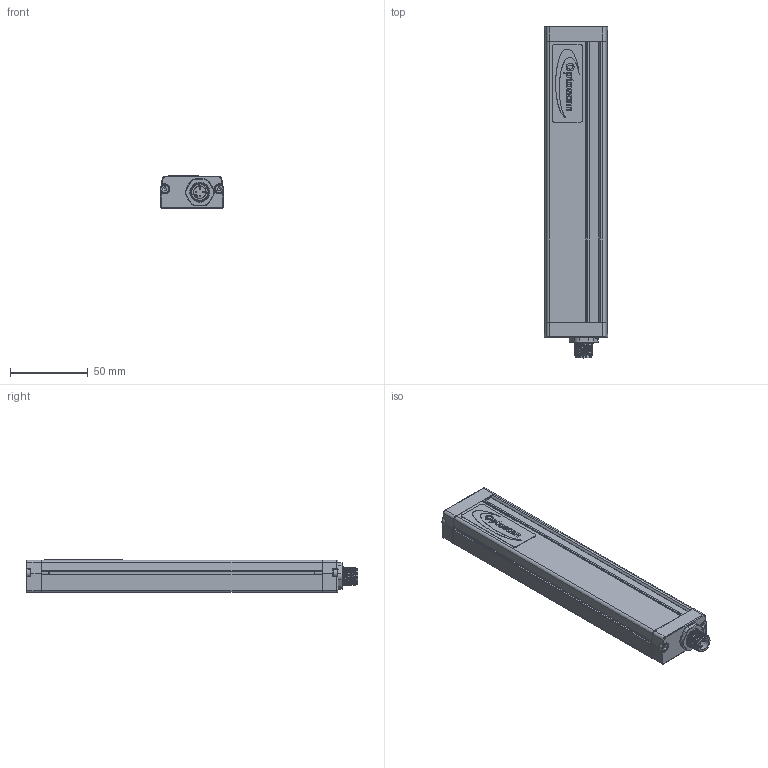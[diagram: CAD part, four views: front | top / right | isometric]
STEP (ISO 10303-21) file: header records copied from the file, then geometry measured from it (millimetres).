
FILE_DESCRIPTION(/* description */ (''),/* implementation_level */ '2;1');
FILE_NAME(/* name */ 'C:\Users\Andrea\SynologyDrive\Optoscan\Libreria Componenti\00 - Barriere\Barriera sorgente\Barriera RX\Argo_180_RX.stp',/* time_stamp */ '2022-06-30T15:46:21+02:00',/* author */ ('Andrea'),/* organization */ (''),/* preprocessor_version */ 'ST-DEVELOPER v18.1',/* originating_system */ 'Autodesk Inventor 2022',/* authorisation */ '');
FILE_SCHEMA (('AUTOMOTIVE_DESIGN { 1 0 10303 214 3 1 1 }'));
Length unit declared in the file: millimetre
Products named in the file (1): Argo_180_RX
Bounding box: 40.5 x 212.8 x 20.75 mm (x, y, z)
Volume: 46224.8 mm3; surface area: 57255.6 mm2
Topology: 1 solids, 2 shells, 753 faces, 2017 edges, 1278 vertices
Faces by surface type: plane 336, cylinder 216, bspline 115, torus 72, cone 8, sphere 6
Full cylindrical faces by diameter (mm): 1 x12, 1.2 x4, 2.459 x4, 2.5 x4, 3 x4, 3.5 x4, 5.5 x4, 8 x1, 10 x1, 10.5 x2, 11.75 x8, 12 x1, 12.3 x3, 14.5 x1, 16.7 x1, 17.5 x1
Entity records: 30151 total; most frequent: CARTESIAN_POINT 11037, ORIENTED_EDGE 4018, DIRECTION 3500, EDGE_CURVE 2009, VERTEX_POINT 1278, AXIS2_PLACEMENT_3D 1219, LINE 1062, VECTOR 1062
